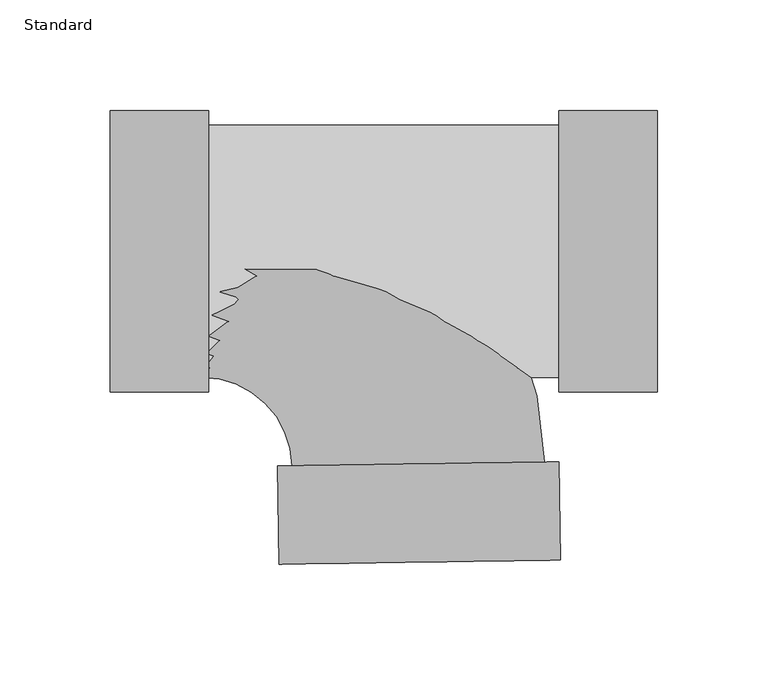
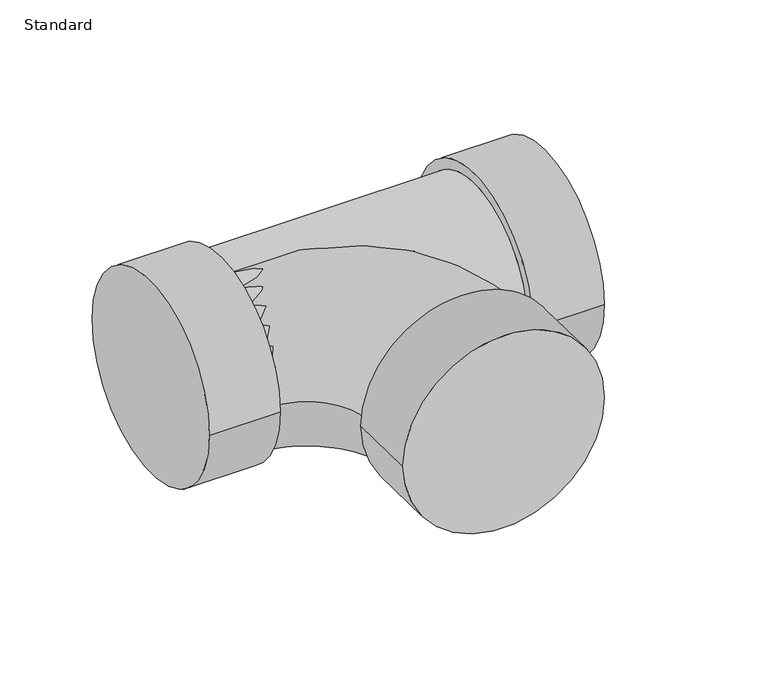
"""IFC4 building model written with IfcOpenShell, lengths in millimetres: pipe fitting geometry, EG-RCAN Té sanitaire de réduction - PVC - Nom. 40 - DWV : Standard."""

from ifc_helpers import new_model, si_unit, point, frame, origin, place, context, project, spatial, circle_curve, ellipse_curve, trimmed, source, transform, mapped, element, save
from ifc_brep_helpers import plane_surface, cylinder_surface, revolved_surface, advanced_brep


def standard_f6c9f473(model_context):
    return source(origin(), model_context, "Body", "AdvancedBrep", [
        advanced_brep(
        [(65.1918844, -63.754, 0.0), (65.1918844, 63.754, 0.0), (65.1918844, -57.15, 0.0), (65.1918844, 57.15, 0.0), (109.6418844, -63.754, 0.0), (109.6418844, 63.754, 0.0), (-93.4599062, 57.15, 0.0), (-93.4599062, -57.15, 0.0), (-137.9099062, -63.754, 0.0), (-137.9099062, 63.754, 0.0), (-93.4599062, -63.754, 0.0), (-93.4599062, 63.754, 0.0)],
        [
            (0, 1, circle_curve(frame((65.1918844, 0.0, 0.0), z_axis=(-1.0, 0.0, 0.0), x_axis=(0.0, 1.0, 0.0)), 63.754)),
            (1, 0, circle_curve(frame((65.1918844, 0.0, 0.0), z_axis=(-1.0, 0.0, 0.0), x_axis=(0.0, 1.0, 0.0)), 63.754)),
            (2, 3, circle_curve(frame((65.1918844, 0.0, 0.0), z_axis=(1.0, 0.0, 0.0), x_axis=(0.0, 0.0, -1.0)), 57.15)),
            (3, 2, circle_curve(frame((65.1918844, 0.0, 0.0), z_axis=(1.0, 0.0, 0.0), x_axis=(0.0, 0.0, 1.0)), 57.15)),
            (4, 5, circle_curve(frame((109.6418844, 0.0, 0.0), z_axis=(1.0, 0.0, 0.0), x_axis=(0.0, 1.0, 0.0)), 63.754)),
            (5, 4, circle_curve(frame((109.6418844, 0.0, 0.0), z_axis=(1.0, 0.0, 0.0), x_axis=(0.0, 1.0, 0.0)), 63.754)),
            (0, 4),
            (5, 1),
            (6, 3),
            (2, 7),
            (7, 6, circle_curve(frame((-93.4599062, 0.0, 0.0), z_axis=(1.0, 0.0, 0.0), x_axis=(0.0, 0.0, -1.0)), 57.15)),
            (6, 7, circle_curve(frame((-93.4599062, 0.0, 0.0), z_axis=(1.0, 0.0, 0.0), x_axis=(0.0, 0.0, 1.0)), 57.15)),
            (8, 9, circle_curve(frame((-137.9099062, 0.0, 0.0), z_axis=(-1.0, 0.0, 0.0), x_axis=(0.0, 1.0, 0.0)), 63.754)),
            (9, 8, circle_curve(frame((-137.9099062, 0.0, 0.0), z_axis=(-1.0, 0.0, 0.0), x_axis=(0.0, 1.0, 0.0)), 63.754)),
            (10, 11, circle_curve(frame((-93.4599062, 0.0, 0.0), z_axis=(1.0, 0.0, 0.0), x_axis=(0.0, 1.0, 0.0)), 63.754)),
            (11, 10, circle_curve(frame((-93.4599062, 0.0, 0.0), z_axis=(1.0, 0.0, 0.0), x_axis=(0.0, 1.0, 0.0)), 63.754)),
            (8, 10),
            (11, 9),
        ],
        [
            plane_surface(frame((65.1918844, 0.0, 0.0), z_axis=(-1.0, 0.0, 0.0), x_axis=(0.0, 0.0, 1.0))),
            plane_surface(frame((109.6418844, 0.0, 0.0), z_axis=(1.0, 0.0, 0.0), x_axis=(0.0, 0.0, 1.0))),
            cylinder_surface(frame((65.1918844, 0.0, 0.0), z_axis=(-1.0, 0.0, 0.0), x_axis=(0.0, 1.0, 0.0)), 63.754),
            cylinder_surface(frame((-93.4599062, 0.0, 0.0), z_axis=(1.0, 0.0, 0.0), x_axis=(0.0, 0.0, -1.0)), 57.15),
            cylinder_surface(frame((-93.4599062, 0.0, 0.0), z_axis=(1.0, 0.0, 0.0), x_axis=(0.0, 0.0, 1.0)), 57.15),
            plane_surface(frame((-137.9099062, 0.0, 0.0), z_axis=(-1.0, 0.0, 0.0), x_axis=(0.0, 0.0, 1.0))),
            plane_surface(frame((-93.4599062, 0.0, 0.0), z_axis=(1.0, 0.0, 0.0), x_axis=(0.0, 0.0, 1.0))),
            cylinder_surface(frame((-137.9099062, 0.0, 0.0), z_axis=(-1.0, 0.0, 0.0), x_axis=(0.0, 1.0, 0.0)), 63.754),
        ],
        [
            (0, [[1, 2], [3, 4]]),
            (1, [[5, 6]]),
            (2, [[-1, 7, -6, 8]]),
            (2, [[-2, -8, -5, -7]]),
            (3, [[9, -3, 10, 11]]),
            (4, [[-9, 12, -10, -4]]),
            (5, [[13, 14]]),
            (6, [[15, 16], [-11, -12]]),
            (7, [[-13, 17, -16, 18]]),
            (7, [[-14, -18, -15, -17]]),
        ],
    ),
        advanced_brep(
        [(-62.3017733, -97.2930235, 0.0), (65.1918844, -95.3806143, 0.0), (58.5886272, -95.4796634, 0.0), (-55.6985162, -97.1939744, 0.0), (-61.6350968, -141.7380237, 0.0), (65.8585609, -139.8256145, 0.0), (-96.3476562, -57.15, 0.0), (-96.3476562, 57.15, 0.0)],
        [
            (0, 1, circle_curve(frame((1.4450555, -96.3368189, 0.0), z_axis=(-0.014998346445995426, 0.9998875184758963, 0.0), x_axis=(0.9998875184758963, 0.014998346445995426, 0.0)), 63.754)),
            (1, 0, circle_curve(frame((1.4450555, -96.3368189, 0.0), z_axis=(-0.014998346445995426, 0.9998875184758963, 0.0), x_axis=(0.9998875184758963, 0.014998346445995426, 0.0)), 63.754)),
            (2, 3, circle_curve(frame((1.4450555, -96.3368189, 0.0), z_axis=(0.014998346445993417, -0.9998875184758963, 0.0), x_axis=(0.9998875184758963, 0.014998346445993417, 0.0)), 57.15)),
            (3, 2, circle_curve(frame((1.4450555, -96.3368189, 0.0), z_axis=(0.014998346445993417, -0.9998875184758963, 0.0), x_axis=(0.9998875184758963, 0.014998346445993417, 0.0)), 57.15)),
            (4, 5, circle_curve(frame((2.111732, -140.7818191, 0.0), z_axis=(0.014998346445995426, -0.9998875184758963, 0.0), x_axis=(0.9998875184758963, 0.014998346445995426, 0.0)), 63.754)),
            (5, 4, circle_curve(frame((2.111732, -140.7818191, 0.0), z_axis=(0.014998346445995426, -0.9998875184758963, 0.0), x_axis=(0.9998875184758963, 0.014998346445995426, 0.0)), 63.754)),
            (0, 4),
            (5, 1),
            (6, 7, circle_curve(frame((-96.3476562, 0.0, 0.0), z_axis=(-1.0, 0.0, 0.0), x_axis=(0.0, 1.0, 0.0)), 57.15)),
            (7, 6, circle_curve(frame((-96.3476562, 0.0, 0.0), z_axis=(-1.0, 0.0, 0.0), x_axis=(0.0, 1.0, 0.0)), 57.15)),
            (6, 3, circle_curve(frame((-96.3476562, -97.8037129, 0.0), z_axis=(0.0, 0.0, -1.0), x_axis=(0.0, 1.0, 0.0)), 40.6537129)),
            (2, 7, circle_curve(frame((-96.3476562, -97.8037129, 0.0), z_axis=(0.0, 0.0, 1.0), x_axis=(0.0, 1.0, 0.0)), 154.9537129)),
        ],
        [
            plane_surface(frame((1.4450555, -96.3368189, 0.0), z_axis=(-0.014998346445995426, 0.9998875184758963, 0.0), x_axis=(0.0, 0.0, 1.0))),
            plane_surface(frame((2.111732, -140.7818191, 0.0), z_axis=(0.014998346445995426, -0.9998875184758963, 0.0), x_axis=(0.0, 0.0, 1.0))),
            cylinder_surface(frame((1.4450555, -96.3368189, 0.0), z_axis=(-0.014998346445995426, 0.9998875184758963, 0.0), x_axis=(0.9998875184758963, 0.014998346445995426, 0.0)), 63.754),
            plane_surface(frame((-96.3476562, 0.0, 0.0), z_axis=(-1.0, 0.0, 0.0), x_axis=(0.0, 0.0, 1.0))),
            revolved_surface(trimmed(ellipse_curve(frame((-96.3476562, 0.0, 0.0), z_axis=(-1.0, 0.0, 0.0), x_axis=(0.0, 1.0, 0.0)), 57.15, 57.15), [point((-96.3476562, -57.15, 0.0))], [point((-96.3476562, 57.15, 0.0))], True, "CARTESIAN"), (-96.3476562, -97.8037129, 0.0), (0.0, 0.0, -1.0)),
            revolved_surface(trimmed(ellipse_curve(frame((-96.3476562, 0.0, 0.0), z_axis=(-1.0, 0.0, 0.0), x_axis=(0.0, 1.0, 0.0)), 57.15, 57.15), [point((-96.3476562, 57.15, 0.0))], [point((-96.3476562, -57.15, 0.0))], True, "CARTESIAN"), (-96.3476562, -97.8037129, 0.0), (0.0, 0.0, -1.0)),
        ],
        [
            (0, [[1, 2], [3, 4]]),
            (1, [[5, 6]]),
            (2, [[-1, 7, -6, 8]]),
            (2, [[-2, -8, -5, -7]]),
            (3, [[9, 10]]),
            (4, [[-9, 11, -3, 12]]),
            (5, [[-10, -12, -4, -11]]),
        ],
    ),
    ])


if __name__ == "__main__":
    model = new_model("IFC4")
    model_context = context("Model", 3, world=origin())
    ifc_project = project(units=[si_unit("LENGTHUNIT", "METRE", prefix="MILLI")], contexts=[model_context])
    site = spatial("IfcSite", under=ifc_project)
    building = spatial("IfcBuilding", under=site)
    placement = place(None, origin())
    standard_shape = standard_f6c9f473(model_context)
    element("IfcPipeFitting", 1, ObjectType="EG-RCAN Té sanitaire de réduction - PVC - Nom. 40 - DWV : Standard", at=placement, inside=building, context=model_context, shape_type="MappedRepresentation", body=[
        mapped(standard_shape, transform((0.0, 0.0, 0.0), x_axis=(1.0, 0.0, 0.0), y_axis=(0.0, 1.0, 0.0), z_axis=(0.0, 0.0, 1.0))),
    ])
    save(model, "model.ifc")
